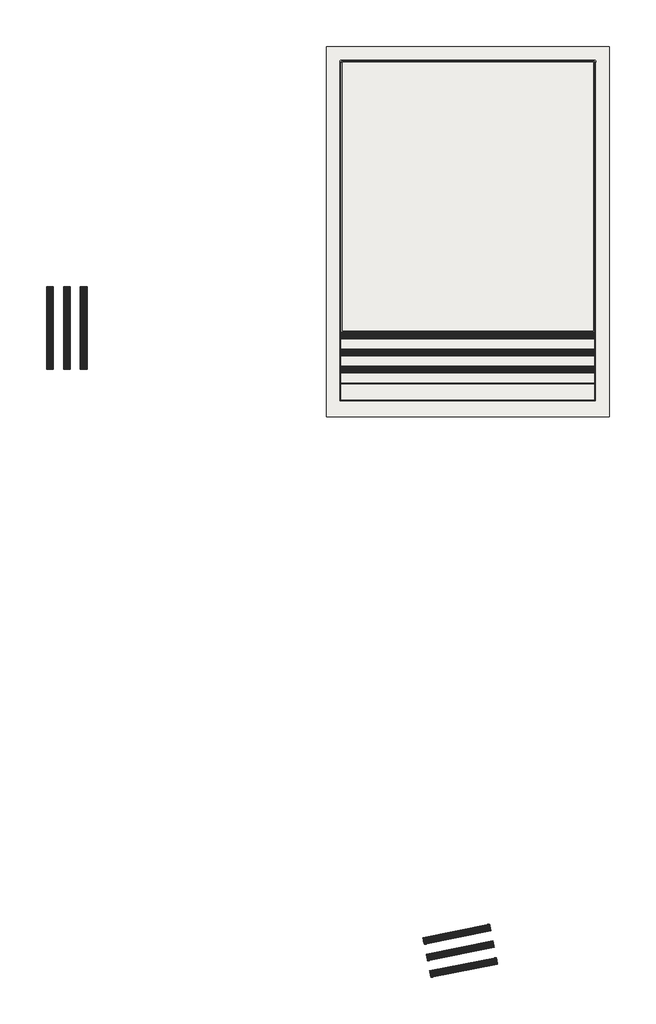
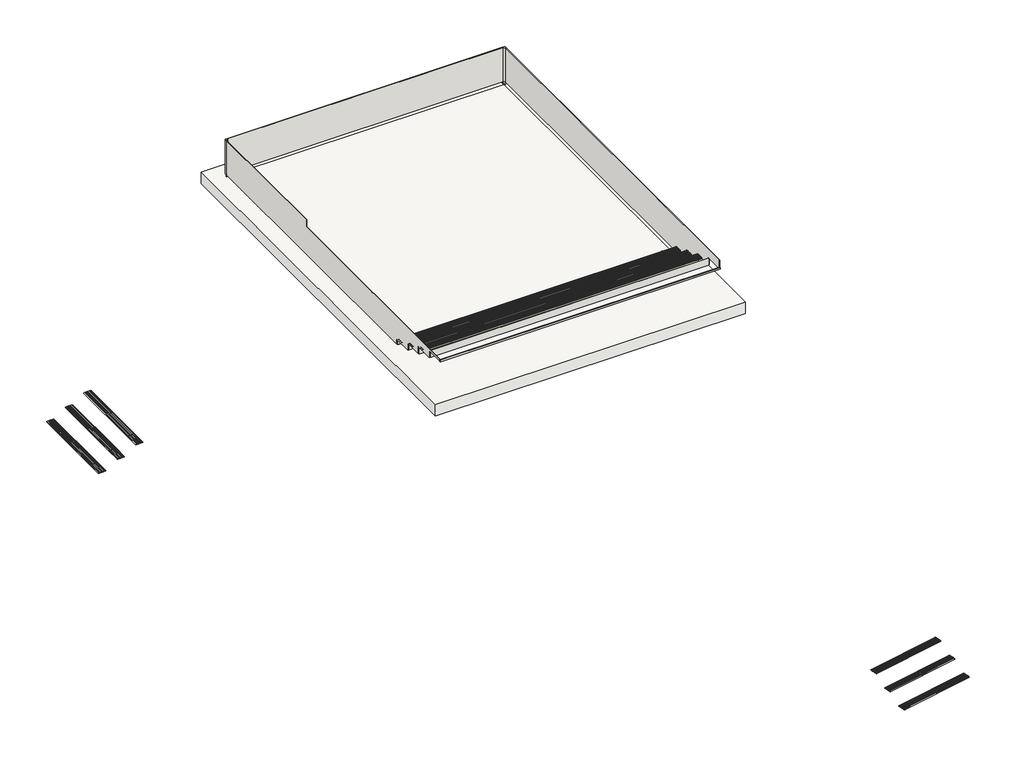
# One storey: 19 slabs, 8 walls, 2 proxies.
"""IFC4 building model written with IfcOpenShell, lengths in millimetres."""

from ifc_helpers import new_model, si_unit, frame, origin, place, context, project, spatial, polyline, outline, extrude, faceted_brep, transform, mapped, element, save
from components import pieza_114_aqua_azul_liso_fd1d6eeb, slab_17d3c6e7, slab_503e0185, slab_43fa2834, slab_f5e70500, slab_230d59c4, pieza_112_aqua_azul_liso_353e48f4, pieza_112_aqua_azul_liso_afb2659f

model = new_model("IFC4")

# Units and contexts
model_context = context("Model", 3, world=origin())
ifc_project = project(units=[si_unit("LENGTHUNIT", "METRE", prefix="MILLI")], contexts=[model_context])

# Site, building, storey
site = spatial("IfcSite", under=ifc_project)
building = spatial("IfcBuilding", under=site)
storey = spatial("IfcBuildingStorey", under=building, Name="3_NFondoP2 -0.6", Elevation=-600.4)

# Proxies
placement = place(None, origin())
pieza_114_aqua_azul_liso_shape = pieza_114_aqua_azul_liso_fd1d6eeb(model_context)
element("IfcBuildingElementProxy", 1, Name="ROSA GRES_114 : Pieza 114_Aqua_Azul_Liso", ObjectType="ROSA GRES_114 : Pieza 114_Aqua_Azul_Liso", at=placement, inside=storey, context=model_context, shape_type="MappedRepresentation", body=[
    mapped(pieza_114_aqua_azul_liso_shape, transform((29467.4274549, -23191.4842352, -610.4), x_axis=(1.0, 0.0, 0.0), y_axis=(0.0, 1.0, 0.0), z_axis=(0.0, 0.0, 1.0))),
])
element("IfcBuildingElementProxy", 2, Name="ROSA GRES_114 : Pieza 114_Aqua_Azul_Liso", ObjectType="ROSA GRES_114 : Pieza 114_Aqua_Azul_Liso", at=placement, inside=storey, context=model_context, shape_type="MappedRepresentation", body=[
    mapped(pieza_114_aqua_azul_liso_shape, transform((33987.4451806, -23191.4310581, -610.4), x_axis=(0.0, -1.0, 0.0), y_axis=(1.0, 0.0, 0.0), z_axis=(0.0, 0.0, 1.0))),
])

# Slabs
element("IfcSlab", 3, ObjectType="GENÉRICO_LOSA PISCINA_Estructura_20 cm", at=placement, inside=storey, context=model_context, shape_type="SweptSolid", body=[
    extrude(outline(polyline([(29227.4363177, -29491.4906943), (29227.4363177, -22951.493098), (34227.4363177, -22951.493098), (34227.4363177, -29491.4906943), (29227.4363177, -29491.4906943)])), frame((0.0, 0.0, -810.4), z_axis=(0.0, 0.0, 1.0), x_axis=(1.0, 0.0, 0.0)), (0.0, 0.0, 1.0), 200.0),
])
element("IfcSlab", 4, ObjectType="Pieza 244 G1_Patrón Recto_Aqua_Azul_Anti-Slip", at=placement, inside=storey, context=model_context, shape_type="SweptSolid", body=[
    extrude(outline(polyline([(33947.4097292, -23231.5196866), (33947.4097292, -27971.4665095), (29507.4629063, -27971.4665095), (29507.4629063, -23231.5196866), (33947.4097292, -23231.5196866)])), frame((0.0, 0.0, -609.4), z_axis=(0.0, 0.0, 1.0), x_axis=(1.0, 0.0, 0.0)), (0.0, 0.0, 1.0), 9.0),
])
slab_shape = slab_17d3c6e7(model_context)
element("IfcSlab", 5, ObjectType="ROSA GRES_003 : Pieza 003_Aqua_Marino_Anti-Slip", at=placement, inside=storey, context=model_context, shape_type="MappedRepresentation", body=[
    mapped(slab_shape, transform((24275.5844643, -28421.4665095, -567.5681195), x_axis=(0.0, 1.0, 0.0), y_axis=(-1.0, 0.0, 0.0), z_axis=(0.0, 0.0, 1.0))),
])
element("IfcSlab", 6, ObjectType="ROSA GRES_003 : Pieza 003_Aqua_Marino_Anti-Slip", at=placement, inside=storey, context=model_context, shape_type="MappedRepresentation", body=[
    mapped(slab_shape, transform((24575.5844643, -28421.4665095, -427.7281195), x_axis=(0.0, 1.0, 0.0), y_axis=(-1.0, 0.0, 0.0), z_axis=(0.0, 0.0, 1.0))),
])
element("IfcSlab", 7, ObjectType="ROSA GRES_003 : Pieza 003_Aqua_Marino_Anti-Slip", at=placement, inside=storey, context=model_context, shape_type="MappedRepresentation", body=[
    mapped(slab_shape, transform((24875.5844643, -28421.4665095, -287.8881195), x_axis=(0.0, 1.0, 0.0), y_axis=(-1.0, 0.0, 0.0), z_axis=(0.0, 0.0, 1.0))),
])
slab_2_shape = slab_503e0185(model_context)
element("IfcSlab", 8, ObjectType="ROSA GRES_003 : Pieza 003_Aqua_Marino_Anti-Slip", at=placement, inside=storey, context=model_context, shape_type="MappedRepresentation", body=[
    mapped(slab_2_shape, transform((24275.5844643, -28421.4665095, -567.5681195), x_axis=(0.0, -1.0, 0.0), y_axis=(1.0, 0.0, 0.0), z_axis=(0.0, 0.0, 1.0))),
])
element("IfcSlab", 9, ObjectType="ROSA GRES_003 : Pieza 003_Aqua_Marino_Anti-Slip", at=placement, inside=storey, context=model_context, shape_type="MappedRepresentation", body=[
    mapped(slab_2_shape, transform((24575.5844643, -28421.4665095, -427.7281195), x_axis=(0.0, -1.0, 0.0), y_axis=(1.0, 0.0, 0.0), z_axis=(0.0, 0.0, 1.0))),
])
element("IfcSlab", 10, ObjectType="ROSA GRES_003 : Pieza 003_Aqua_Marino_Anti-Slip", at=placement, inside=storey, context=model_context, shape_type="MappedRepresentation", body=[
    mapped(slab_2_shape, transform((24875.5844643, -28421.4665095, -287.8881195), x_axis=(0.0, -1.0, 0.0), y_axis=(1.0, 0.0, 0.0), z_axis=(0.0, 0.0, 1.0))),
])
slab_3_shape = slab_43fa2834(model_context)
element("IfcSlab", 11, ObjectType="ROSA GRES_003 : Pieza 003_Aqua_Marino_Anti-Slip", at=placement, inside=storey, context=model_context, shape_type="MappedRepresentation", body=[
    mapped(slab_3_shape, transform((33757.4629063, -28599.6412499, -248.8572336), x_axis=(-1.0, 0.0, 0.0), y_axis=(0.0, -1.0, 0.0), z_axis=(0.0, 0.0, 1.0))),
])
element("IfcSlab", 12, ObjectType="ROSA GRES_003 : Pieza 003_Aqua_Marino_Anti-Slip", at=placement, inside=storey, context=model_context, shape_type="MappedRepresentation", body=[
    mapped(slab_3_shape, transform((33757.4629063, -28299.6412499, -368.8572336), x_axis=(-1.0, 0.0, 0.0), y_axis=(0.0, -1.0, 0.0), z_axis=(0.0, 0.0, 1.0))),
])
element("IfcSlab", 13, ObjectType="ROSA GRES_003 : Pieza 003_Aqua_Marino_Anti-Slip", at=placement, inside=storey, context=model_context, shape_type="MappedRepresentation", body=[
    mapped(slab_3_shape, transform((33757.4629063, -27999.6412499, -488.8572336), x_axis=(-1.0, 0.0, 0.0), y_axis=(0.0, -1.0, 0.0), z_axis=(0.0, 0.0, 1.0))),
])
slab_4_shape = slab_f5e70500(model_context)
element("IfcSlab", 14, ObjectType="ROSA GRES_003 : Pieza 003_Aqua_Marino_Anti-Slip", at=placement, inside=storey, context=model_context, shape_type="MappedRepresentation", body=[
    mapped(slab_4_shape, transform((33757.4629063, -28599.6412499, -248.8572336), x_axis=(1.0, 0.0, 0.0), y_axis=(0.0, 1.0, 0.0), z_axis=(0.0, 0.0, 1.0))),
])
element("IfcSlab", 15, ObjectType="ROSA GRES_003 : Pieza 003_Aqua_Marino_Anti-Slip", at=placement, inside=storey, context=model_context, shape_type="MappedRepresentation", body=[
    mapped(slab_4_shape, transform((33757.4629063, -28299.6412499, -368.8572336), x_axis=(1.0, 0.0, 0.0), y_axis=(0.0, 1.0, 0.0), z_axis=(0.0, 0.0, 1.0))),
])
element("IfcSlab", 16, ObjectType="ROSA GRES_003 : Pieza 003_Aqua_Marino_Anti-Slip", at=placement, inside=storey, context=model_context, shape_type="MappedRepresentation", body=[
    mapped(slab_4_shape, transform((33757.4629063, -27999.6412499, -488.8572336), x_axis=(1.0, 0.0, 0.0), y_axis=(0.0, 1.0, 0.0), z_axis=(0.0, 0.0, 1.0))),
])
slab_5_shape = slab_230d59c4(model_context)
element("IfcSlab", 17, ObjectType="ROSA GRES_003 : Pieza 003_Aqua_Marino_Anti-Slip", at=placement, inside=storey, context=model_context, shape_type="MappedRepresentation", body=[
    mapped(slab_5_shape, transform((30958.2342275, -38816.9161598, -159.4), x_axis=(0.980567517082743, 0.19618191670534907, 0.0), y_axis=(-0.19618191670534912, 0.9805675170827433, 0.0), z_axis=(0.0, 0.0, 1.0000000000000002))),
])
element("IfcSlab", 18, ObjectType="ROSA GRES_003 : Pieza 003_Aqua_Marino_Anti-Slip", at=placement, inside=storey, context=model_context, shape_type="MappedRepresentation", body=[
    mapped(slab_5_shape, transform((31017.0888107, -39111.0864133, -309.4), x_axis=(0.980567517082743, 0.19618191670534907, 0.0), y_axis=(-0.19618191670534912, 0.9805675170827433, 0.0), z_axis=(0.0, 0.0, 1.0000000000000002))),
])
element("IfcSlab", 19, ObjectType="ROSA GRES_003 : Pieza 003_Aqua_Marino_Anti-Slip", at=placement, inside=storey, context=model_context, shape_type="MappedRepresentation", body=[
    mapped(slab_5_shape, transform((31075.9433906, -39405.25665, -459.4), x_axis=(0.980567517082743, 0.19618191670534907, 0.0), y_axis=(-0.19618191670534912, 0.9805675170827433, 0.0), z_axis=(0.0, 0.0, 1.0000000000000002))),
])
pieza_112_aqua_azul_liso_shape = pieza_112_aqua_azul_liso_353e48f4(model_context)
element("IfcSlab", 20, ObjectType="ROSA GRES_112 : Pieza 112_Aqua_Azul_Liso", at=placement, inside=storey, context=model_context, shape_type="MappedRepresentation", body=[
    mapped(pieza_112_aqua_azul_liso_shape, transform((33987.4097292, -23191.4665095, 12.879961), x_axis=(0.0, 0.0, -1.0), y_axis=(1.0, 0.0, 0.0), z_axis=(0.0, -1.0, 0.0))),
])
pieza_112_aqua_azul_liso_2_shape = pieza_112_aqua_azul_liso_afb2659f(model_context)
element("IfcSlab", 21, ObjectType="ROSA GRES_112 : Pieza 112_Aqua_Azul_Liso", at=placement, inside=storey, context=model_context, shape_type="MappedRepresentation", body=[
    mapped(pieza_112_aqua_azul_liso_2_shape, transform((29467.4629063, -23191.5196866, 9.6), x_axis=(0.0, 0.0, -1.0), y_axis=(0.0, 1.0, 0.0), z_axis=(1.0, 0.0, 0.0))),
])

# Walls
element("IfcWall", 22, ObjectType="Pieza 244 G1_Patrón Recto_Aqua_Azul_Liso", at=placement, inside=storey, context=model_context, shape_type="SweptSolid", body=[
    extrude(outline(polyline([(33947.4097292, -23201.493098), (29507.4629063, -23201.493098), (29507.4629063, -23192.493098), (33947.4097292, -23192.493098), (33947.4097292, -23201.493098)])), frame((0.0, 0.0, -570.4), z_axis=(0.0, 0.0, 1.0), x_axis=(1.0, 0.0, 0.0)), (0.0, 0.0, 1.0), 583.279961),
])
element("IfcWall", 23, ObjectType="Pieza 244 G1_Patrón Recto_Aqua_Azul_Liso", at=placement, inside=storey, context=model_context, shape_type="Brep", body=[
    faceted_brep([(33977.4363177, -23231.4665095, -570.4), (33977.4363177, -28001.493098, -570.4), (33977.4363177, -28001.493098, -488.8572336), (33977.4363177, -28301.493098, -488.8572336), (33977.4363177, -28301.493098, -368.8572336), (33977.4363177, -28601.493098, -368.8572336), (33977.4363177, -28601.493098, -248.8572336), (33977.4363177, -28901.493098, -248.8572336), (33977.4363177, -28901.493098, -128.8572336), (33977.4363177, -29201.493098, -128.8572336), (33977.4363177, -29201.493098, 12.879961), (33977.4363177, -23231.4665095, 12.879961), (33986.4363177, -23231.4665095, -570.4), (33986.4363177, -23231.4665095, 12.879961), (33986.4363177, -29201.493098, 12.879961), (33986.4363177, -29201.493098, -107.0549087), (33986.4363177, -29201.493098, -128.8572336), (33986.4363177, -28901.493098, -128.8572336), (33986.4363177, -28901.493098, -248.8572336), (33986.4363177, -28601.493098, -248.8572336), (33986.4363177, -28601.493098, -368.8572336), (33986.4363177, -28301.493098, -368.8572336), (33986.4363177, -28301.493098, -488.8572336), (33986.4363177, -28001.493098, -488.8572336), (33986.4363177, -28001.493098, -570.4)], [[[0, 1, 2, 3, 4, 5, 6, 7, 8, 9, 10, 11]], [[12, 13, 14, 15, 16, 17, 18, 19, 20, 21, 22, 23, 24]], [[10, 9, 16, 15, 14]], [[1, 0, 12, 24]], [[11, 10, 14, 13]], [[0, 11, 13, 12]], [[2, 1, 24, 23]], [[3, 2, 23, 22]], [[4, 3, 22, 21]], [[5, 4, 21, 20]], [[6, 5, 20, 19]], [[7, 6, 19, 18]], [[8, 7, 18, 17]], [[9, 8, 17, 16]]]),
])
element("IfcWall", 24, ObjectType="Pieza 244 G1_Patrón Recto_Aqua_Azul_Liso", at=placement, inside=storey, context=model_context, shape_type="Brep", body=[
    faceted_brep([(33986.4363177, -29201.493098, -140.7617462), (29468.4363177, -29201.493098, -140.7617462), (29468.4363177, -29201.493098, -128.8572336), (29468.4363177, -29201.493098, -107.0549087), (29477.4363177, -29201.493098, -107.0549087), (33986.4363177, -29201.493098, -107.0549087), (33986.4363177, -29201.493098, -128.8572336), (33986.4363177, -29210.493098, -140.7617462), (33986.4363177, -29210.493098, -107.0549087), (29468.4363177, -29210.493098, -107.0549087), (29468.4363177, -29210.493098, -140.7617462)], [[[0, 1, 2, 3, 4, 5, 6]], [[7, 8, 9, 10]], [[1, 0, 7, 10]], [[5, 4, 3, 9, 8]], [[3, 2, 1, 10, 9]], [[0, 6, 5, 8, 7]]]),
])
element("IfcWall", 25, ObjectType="Pieza 244 G1_Patrón Recto_Aqua_Azul_Liso", at=placement, inside=storey, context=model_context, shape_type="SweptSolid", body=[
    extrude(outline(polyline([(-29201.493098, -128.8572336), (-29201.493098, -107.0549087), (-25461.493098, -107.0549087), (-25461.493098, 12.879961), (-23231.5196866, 12.879961), (-23231.5196866, -570.4), (-28001.493098, -570.4), (-28001.493098, -488.8572336), (-28301.493098, -488.8572336), (-28301.493098, -368.8572336), (-28601.493098, -368.8572336), (-28601.493098, -248.8572336), (-28901.493098, -248.8572336), (-28901.493098, -128.8572336), (-29201.493098, -128.8572336)])), frame((29468.4363177, 0.0, 0.0), z_axis=(1.0, 0.0, 0.0), x_axis=(0.0, 1.0, 0.0)), (0.0, 0.0, 1.0), 9.0),
])
element("IfcWall", 26, ObjectType="Pieza 244 G1_Patrón Recto_Aqua_Azul_Liso", at=placement, inside=storey, context=model_context, shape_type="SweptSolid", body=[
    extrude(outline(polyline([(33977.4363177, -28010.493098), (29477.4363177, -28010.493098), (29477.4363177, -28001.493098), (33977.4363177, -28001.493098), (33977.4363177, -28010.493098)])), frame((0.0, 0.0, -570.4), z_axis=(0.0, 0.0, 1.0), x_axis=(1.0, 0.0, 0.0)), (0.0, 0.0, 1.0), 81.5427664),
])
element("IfcWall", 27, ObjectType="Pieza 244 G1_Patrón Recto_Aqua_Azul_Liso", at=placement, inside=storey, context=model_context, shape_type="SweptSolid", body=[
    extrude(outline(polyline([(33977.4363177, -28310.493098), (29477.4363177, -28310.493098), (29477.4363177, -28301.493098), (33977.4363177, -28301.493098), (33977.4363177, -28310.493098)])), frame((0.0, 0.0, -488.8572336), z_axis=(0.0, 0.0, 1.0), x_axis=(1.0, 0.0, 0.0)), (0.0, 0.0, 1.0), 120.0),
])
element("IfcWall", 28, ObjectType="Pieza 244 G1_Patrón Recto_Aqua_Azul_Liso", at=placement, inside=storey, context=model_context, shape_type="SweptSolid", body=[
    extrude(outline(polyline([(33977.4363177, -28610.493098), (29477.4363177, -28610.493098), (29477.4363177, -28601.493098), (33977.4363177, -28601.493098), (33977.4363177, -28610.493098)])), frame((0.0, 0.0, -368.8572336), z_axis=(0.0, 0.0, 1.0), x_axis=(1.0, 0.0, 0.0)), (0.0, 0.0, 1.0), 120.0),
])
element("IfcWall", 29, ObjectType="Pieza 244 G1_Patrón Recto_Aqua_Azul_Liso", at=placement, inside=storey, context=model_context, shape_type="SweptSolid", body=[
    extrude(outline(polyline([(33977.4363177, -28910.493098), (29477.4363177, -28910.493098), (29477.4363177, -28901.493098), (33977.4363177, -28901.493098), (33977.4363177, -28910.493098)])), frame((0.0, 0.0, -248.8572336), z_axis=(0.0, 0.0, 1.0), x_axis=(1.0, 0.0, 0.0)), (0.0, 0.0, 1.0), 120.0),
])

save(model, "model.ifc")
